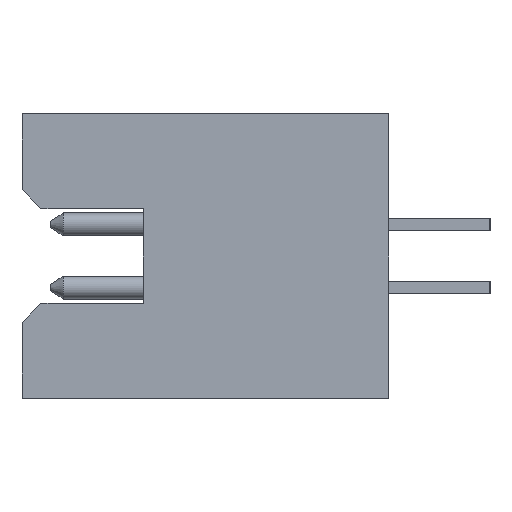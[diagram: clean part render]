
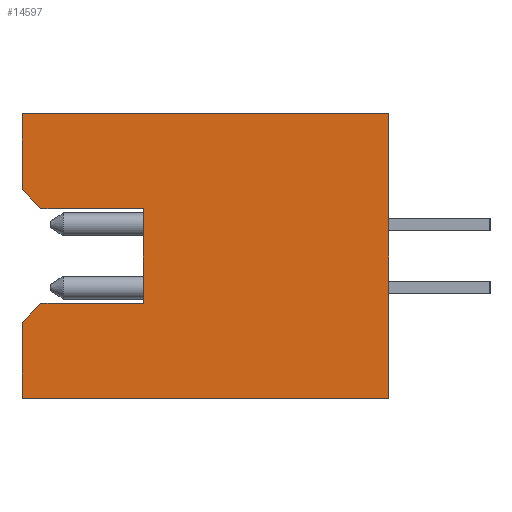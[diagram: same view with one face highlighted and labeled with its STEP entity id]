
A CAD part, left-side view. The second image highlights one B-rep face of the part: STEP entity #14597.
In plain terms, the highlighted planar face has unit normal (-1, 0, 0).
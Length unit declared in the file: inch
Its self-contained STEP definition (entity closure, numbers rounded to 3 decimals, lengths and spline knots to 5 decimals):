
#11 = ORIENTED_EDGE ( 'NONE', *, *, #16367, .F. ) ;
#26 = ORIENTED_EDGE ( 'NONE', *, *, #16378, .F. ) ;
#31 = ORIENTED_EDGE ( 'NONE', *, *, #16408, .T. ) ;
#34 = ORIENTED_EDGE ( 'NONE', *, *, #16361, .F. ) ;
#484 = LINE ( 'NONE', #987, #486 ) ;
#486 = VECTOR ( 'NONE', #988, 39.37008 ) ;
#987 = CARTESIAN_POINT ( 'NONE',  ( -1.375, 0.29, -0.1125 ) ) ;
#988 = DIRECTION ( 'NONE',  ( 0., 1., 0. ) ) ;
#2751 = FACE_OUTER_BOUND ( 'NONE', #15998, .T. ) ;
#2855 = EDGE_CURVE ( 'NONE', #17053, #17035, #484, .T. ) ;
#5751 = AXIS2_PLACEMENT_3D ( 'NONE', #6064, #6069, #6070 ) ;
#6063 = PLANE ( 'NONE',  #5751 ) ;
#6064 = CARTESIAN_POINT ( 'NONE',  ( -1.375, 0., 0.1125 ) ) ;
#6069 = DIRECTION ( 'NONE',  ( 1., 0., 0. ) ) ;
#6070 = DIRECTION ( 'NONE',  ( 0., 0., -1. ) ) ;
#7089 = LINE ( 'NONE', #8272, #7096 ) ;
#7096 = VECTOR ( 'NONE', #8278, 39.37008 ) ;
#7286 = LINE ( 'NONE', #8522, #7289 ) ;
#7289 = VECTOR ( 'NONE', #8524, 39.37008 ) ;
#7294 = LINE ( 'NONE', #8523, #7301 ) ;
#7301 = VECTOR ( 'NONE', #8535, 39.37008 ) ;
#7304 = LINE ( 'NONE', #8540, #7307 ) ;
#7307 = VECTOR ( 'NONE', #8541, 39.37008 ) ;
#7320 = LINE ( 'NONE', #8557, #7323 ) ;
#7323 = VECTOR ( 'NONE', #8558, 39.37008 ) ;
#7346 = LINE ( 'NONE', #8606, #7376 ) ;
#7349 = LINE ( 'NONE', #8590, #7357 ) ;
#7357 = VECTOR ( 'NONE', #8605, 39.37008 ) ;
#7369 = LINE ( 'NONE', #8620, #7372 ) ;
#7371 = LINE ( 'NONE', #8622, #7374 ) ;
#7372 = VECTOR ( 'NONE', #8621, 39.37008 ) ;
#7374 = VECTOR ( 'NONE', #8624, 39.37008 ) ;
#7376 = VECTOR ( 'NONE', #8625, 39.37008 ) ;
#8272 = CARTESIAN_POINT ( 'NONE',  ( -1.375, 0.29, 0.1125 ) ) ;
#8278 = DIRECTION ( 'NONE',  ( 0., -1., 0. ) ) ;
#8522 = CARTESIAN_POINT ( 'NONE',  ( -1.375, 0.29, 0.0375 ) ) ;
#8523 = CARTESIAN_POINT ( 'NONE',  ( -1.375, 0.194, 0.0375 ) ) ;
#8524 = DIRECTION ( 'NONE',  ( 0., 1., 0. ) ) ;
#8535 = DIRECTION ( 'NONE',  ( 0., 0., 1. ) ) ;
#8540 = CARTESIAN_POINT ( 'NONE',  ( -1.375, 0.194, -0.0375 ) ) ;
#8541 = DIRECTION ( 'NONE',  ( 0., -1., 0. ) ) ;
#8557 = CARTESIAN_POINT ( 'NONE',  ( -1.375, 0.29, 0.1125 ) ) ;
#8558 = DIRECTION ( 'NONE',  ( 0., 0., 1. ) ) ;
#8590 = CARTESIAN_POINT ( 'NONE',  ( -1.375, 0.29, -0.0375 ) ) ;
#8605 = DIRECTION ( 'NONE',  ( 0., 0., 1. ) ) ;
#8606 = CARTESIAN_POINT ( 'NONE',  ( -1.375, 0.275, 0.0375 ) ) ;
#8620 = CARTESIAN_POINT ( 'NONE',  ( -1.375, 0., 0.1125 ) ) ;
#8621 = DIRECTION ( 'NONE',  ( 0., 0., -1. ) ) ;
#8622 = CARTESIAN_POINT ( 'NONE',  ( -1.375, 0.29, -0.0525 ) ) ;
#8624 = DIRECTION ( 'NONE',  ( 0., 0.707, -0.707 ) ) ;
#8625 = DIRECTION ( 'NONE',  ( 0., -0.707, -0.707 ) ) ;
#10424 = CARTESIAN_POINT ( 'NONE',  ( -1.375, 0.29, -0.1125 ) ) ;
#10442 = CARTESIAN_POINT ( 'NONE',  ( -1.375, 0., -0.1125 ) ) ;
#10742 = CARTESIAN_POINT ( 'NONE',  ( -1.375, 0.194, 0.0375 ) ) ;
#10745 = CARTESIAN_POINT ( 'NONE',  ( -1.375, 0.275, 0.0375 ) ) ;
#10746 = CARTESIAN_POINT ( 'NONE',  ( -1.375, 0.194, -0.0375 ) ) ;
#10753 = CARTESIAN_POINT ( 'NONE',  ( -1.375, 0.275, -0.0375 ) ) ;
#10760 = CARTESIAN_POINT ( 'NONE',  ( -1.375, 0.29, 0.0525 ) ) ;
#10769 = CARTESIAN_POINT ( 'NONE',  ( -1.375, 0.29, -0.0525 ) ) ;
#10830 = CARTESIAN_POINT ( 'NONE',  ( -1.375, 0.29, 0.1125 ) ) ;
#10882 = CARTESIAN_POINT ( 'NONE',  ( -1.375, 0., 0.1125 ) ) ;
#13984 = ORIENTED_EDGE ( 'NONE', *, *, #16370, .F. ) ;
#13985 = ORIENTED_EDGE ( 'NONE', *, *, #16407, .T. ) ;
#13988 = ORIENTED_EDGE ( 'NONE', *, *, #16398, .F. ) ;
#13989 = ORIENTED_EDGE ( 'NONE', *, *, #2855, .F. ) ;
#13991 = ORIENTED_EDGE ( 'NONE', *, *, #16406, .F. ) ;
#13992 = ORIENTED_EDGE ( 'NONE', *, *, #16252, .F. ) ;
#14597 = ADVANCED_FACE ( 'NONE', ( #2751 ), #6063, .F. ) ;
#15998 = EDGE_LOOP ( 'NONE', ( #13984, #13985, #13988, #13989, #13991, #13992, #26, #31, #34, #11 ) ) ;
#16252 = EDGE_CURVE ( 'NONE', #17441, #17493, #7089, .T. ) ;
#16361 = EDGE_CURVE ( 'NONE', #17353, #17356, #7286, .T. ) ;
#16367 = EDGE_CURVE ( 'NONE', #17357, #17353, #7294, .T. ) ;
#16370 = EDGE_CURVE ( 'NONE', #17364, #17357, #7304, .T. ) ;
#16378 = EDGE_CURVE ( 'NONE', #17371, #17441, #7320, .T. ) ;
#16398 = EDGE_CURVE ( 'NONE', #17035, #17380, #7349, .T. ) ;
#16406 = EDGE_CURVE ( 'NONE', #17493, #17053, #7369, .T. ) ;
#16407 = EDGE_CURVE ( 'NONE', #17364, #17380, #7371, .T. ) ;
#16408 = EDGE_CURVE ( 'NONE', #17371, #17356, #7346, .T. ) ;
#17035 = VERTEX_POINT ( 'NONE', #10424 ) ;
#17053 = VERTEX_POINT ( 'NONE', #10442 ) ;
#17353 = VERTEX_POINT ( 'NONE', #10742 ) ;
#17356 = VERTEX_POINT ( 'NONE', #10745 ) ;
#17357 = VERTEX_POINT ( 'NONE', #10746 ) ;
#17364 = VERTEX_POINT ( 'NONE', #10753 ) ;
#17371 = VERTEX_POINT ( 'NONE', #10760 ) ;
#17380 = VERTEX_POINT ( 'NONE', #10769 ) ;
#17441 = VERTEX_POINT ( 'NONE', #10830 ) ;
#17493 = VERTEX_POINT ( 'NONE', #10882 ) ;
